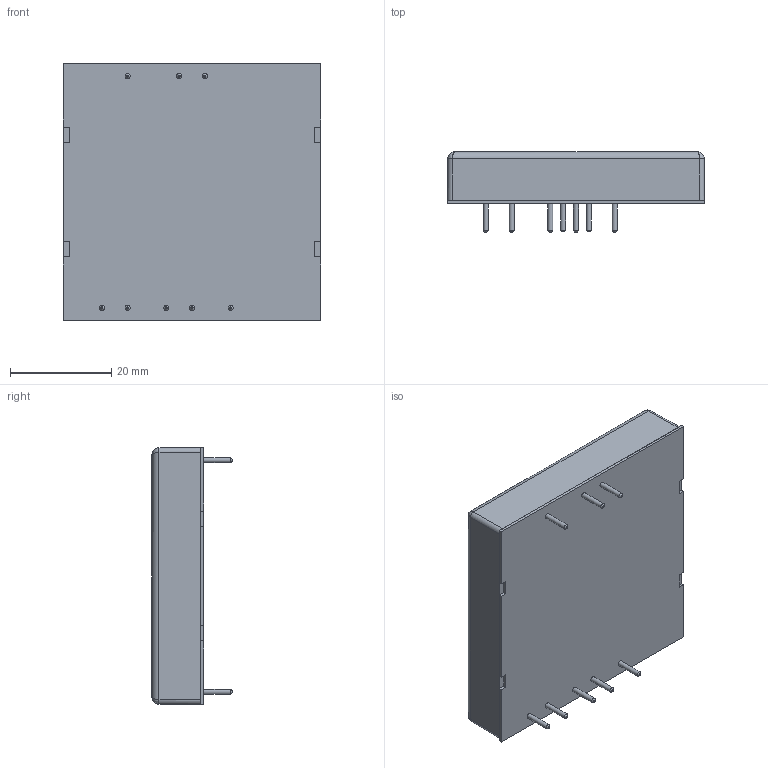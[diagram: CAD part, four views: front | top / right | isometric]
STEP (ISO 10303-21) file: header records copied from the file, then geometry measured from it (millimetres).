
FILE_DESCRIPTION (( 'STEP AP214' ), '1' );
FILE_NAME ('TEN40.STEP', '2020-10-20T06:23:29', ( 'user' ), ( '' ), 'SwSTEP 2.0', 'SolidWorks 2016', '' );
FILE_SCHEMA (( 'AUTOMOTIVE_DESIGN' ));
Length unit declared in the file: millimetre
Products named in the file (2): TEN40
Bounding box: 50.8 x 15.8 x 50.8 mm (x, y, z)
Volume: 26080.6 mm3; surface area: 7216 mm2
Topology: 1 solids, 1 shells, 70 faces, 164 edges, 100 vertices
Faces by surface type: plane 42, cylinder 16, cone 8, bspline 4
Full cylindrical faces by diameter (mm): 1 x8
Entity records: 2252 total; most frequent: CARTESIAN_POINT 500, DIRECTION 288, ORIENTED_EDGE 272, EDGE_CURVE 136, AXIS2_PLACEMENT_3D 96, LINE 96, VECTOR 96, EDGE_LOOP 94
